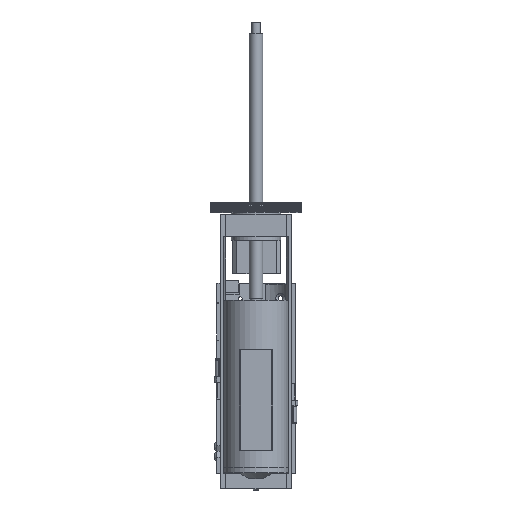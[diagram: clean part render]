
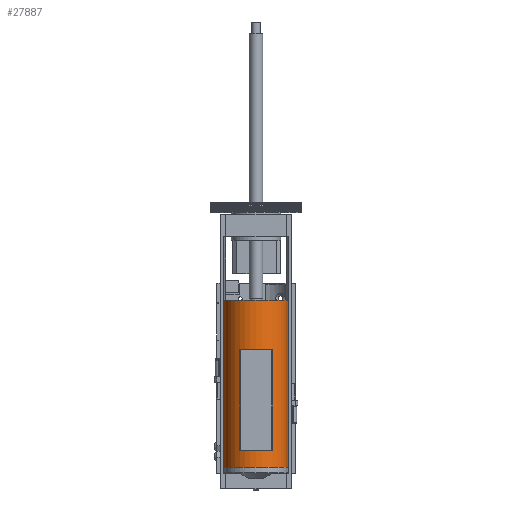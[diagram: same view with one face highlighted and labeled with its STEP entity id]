
A CAD part, front view. The second image highlights one B-rep face of the part: STEP entity #27887.
In plain terms, the highlighted cylindrical face has radius 28.7 mm (diameter 57.4 mm), a full revolution.
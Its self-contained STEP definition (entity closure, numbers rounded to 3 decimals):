
#2139=CYLINDRICAL_SURFACE('',#29704,28.7);
#3391=CIRCLE('',#29705,28.7);
#3392=CIRCLE('',#29706,28.7);
#4307=FACE_OUTER_BOUND('',#5954,.T.);
#5954=EDGE_LOOP('',(#20375,#20376,#20377,#20378));
#7753=LINE('',#59615,#9677);
#9677=VECTOR('',#33022,28.7);
#11761=VERTEX_POINT('',#59612);
#11762=VERTEX_POINT('',#59614);
#14984=EDGE_CURVE('',#11761,#11761,#3391,.T.);
#14985=EDGE_CURVE('',#11761,#11762,#7753,.T.);
#14986=EDGE_CURVE('',#11762,#11762,#3392,.T.);
#20375=ORIENTED_EDGE('',*,*,#14984,.F.);
#20376=ORIENTED_EDGE('',*,*,#14985,.T.);
#20377=ORIENTED_EDGE('',*,*,#14986,.T.);
#20378=ORIENTED_EDGE('',*,*,#14985,.F.);
#27887=ADVANCED_FACE('',(#4307),#2139,.T.);
#29704=AXIS2_PLACEMENT_3D('',#59611,#33018,#33019);
#29705=AXIS2_PLACEMENT_3D('',#59613,#33020,#33021);
#29706=AXIS2_PLACEMENT_3D('',#59616,#33023,#33024);
#33018=DIRECTION('center_axis',(0.,0.,1.));
#33019=DIRECTION('ref_axis',(0.,1.,0.));
#33020=DIRECTION('center_axis',(0.,0.,1.));
#33021=DIRECTION('ref_axis',(1.,0.,0.));
#33022=DIRECTION('',(0.,0.,-1.));
#33023=DIRECTION('center_axis',(0.,0.,1.));
#33024=DIRECTION('ref_axis',(1.,0.,0.));
#59611=CARTESIAN_POINT('Origin',(35.,-40.,83.078));
#59612=CARTESIAN_POINT('',(35.,-68.7,157.69));
#59613=CARTESIAN_POINT('Origin',(35.,-40.,157.69));
#59614=CARTESIAN_POINT('',(35.,-68.7,8.465));
#59615=CARTESIAN_POINT('',(35.,-68.7,83.078));
#59616=CARTESIAN_POINT('Origin',(35.,-40.,8.465));
